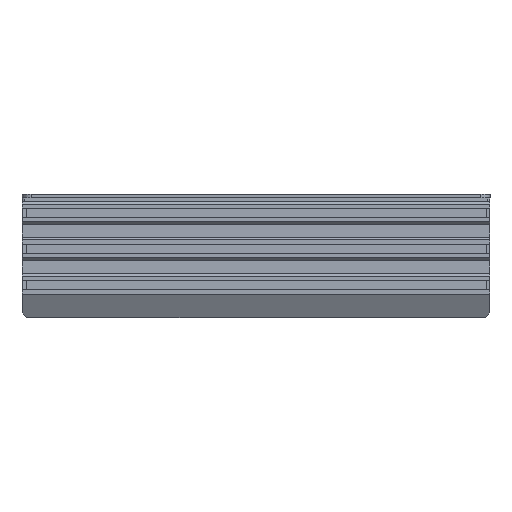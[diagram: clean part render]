
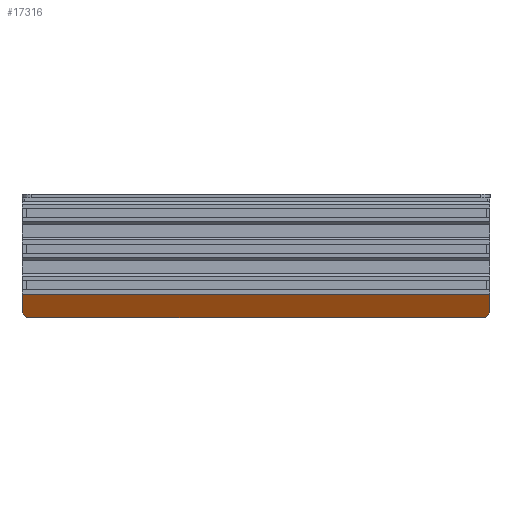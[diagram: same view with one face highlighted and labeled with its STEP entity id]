
A CAD part, left-side view. The second image highlights one B-rep face of the part: STEP entity #17316.
In plain terms, the highlighted planar face has unit normal (-0.867, 0, -0.499).
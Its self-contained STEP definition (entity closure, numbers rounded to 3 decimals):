
#1080=DIRECTION('',(-0.499,0.,0.866));
#1081=VECTOR('',#1080,9.233);
#1082=CARTESIAN_POINT('',(-89.691,-99.75,-23.7));
#1083=LINE('',#1082,#1081);
#1614=DIRECTION('',(0.499,0.,-0.866));
#1615=VECTOR('',#1614,9.233);
#1616=CARTESIAN_POINT('',(-94.3,99.75,-15.7));
#1617=LINE('',#1616,#1615);
#6790=DIRECTION('',(0.377,0.655,-0.655));
#6791=VECTOR('',#6790,3.054);
#6792=CARTESIAN_POINT('',(-89.691,-99.75,-23.7));
#6793=LINE('',#6792,#6791);
#6794=DIRECTION('',(-0.377,0.655,0.655));
#6795=VECTOR('',#6794,3.054);
#6796=CARTESIAN_POINT('',(-88.539,97.75,-25.7));
#6797=LINE('',#6796,#6795);
#6798=DIRECTION('',(0.,-1.,0.));
#6799=VECTOR('',#6798,199.5);
#6800=CARTESIAN_POINT('',(-94.3,99.75,-15.7));
#6801=LINE('',#6800,#6799);
#6802=DIRECTION('',(0.,-1.,0.));
#6803=VECTOR('',#6802,195.5);
#6804=CARTESIAN_POINT('',(-88.539,97.75,-25.7));
#6805=LINE('',#6804,#6803);
#7606=CARTESIAN_POINT('',(-89.691,-99.75,-23.7));
#7607=VERTEX_POINT('',#7606);
#7608=CARTESIAN_POINT('',(-94.3,-99.75,-15.7));
#7609=VERTEX_POINT('',#7608);
#7914=CARTESIAN_POINT('',(-94.3,99.75,-15.7));
#7915=VERTEX_POINT('',#7914);
#7916=CARTESIAN_POINT('',(-89.691,99.75,-23.7));
#7917=VERTEX_POINT('',#7916);
#9143=CARTESIAN_POINT('',(-88.539,-97.75,-25.7));
#9144=VERTEX_POINT('',#9143);
#9146=CARTESIAN_POINT('',(-88.539,97.75,-25.7));
#9147=VERTEX_POINT('',#9146);
#17301=CARTESIAN_POINT('',(-88.539,-99.75,-25.7));
#17302=DIRECTION('',(-0.866,0.,-0.499));
#17303=DIRECTION('',(-0.499,0.,0.866));
#17304=AXIS2_PLACEMENT_3D('',#17301,#17302,#17303);
#17305=PLANE('',#17304);
#17306=ORIENTED_EDGE('',*,*,#17262,.T.);
#17308=ORIENTED_EDGE('',*,*,#17307,.F.);
#17309=ORIENTED_EDGE('',*,*,#17287,.T.);
#17310=ORIENTED_EDGE('',*,*,#10042,.F.);
#17312=ORIENTED_EDGE('',*,*,#17311,.T.);
#17313=ORIENTED_EDGE('',*,*,#9617,.F.);
#17314=EDGE_LOOP('',(#17306,#17308,#17309,#17310,#17312,#17313));
#17315=FACE_OUTER_BOUND('',#17314,.F.);
#9617=EDGE_CURVE('',#7607,#7609,#1083,.T.);
#10042=EDGE_CURVE('',#7915,#7917,#1617,.T.);
#17262=EDGE_CURVE('',#7607,#9144,#6793,.T.);
#17287=EDGE_CURVE('',#9147,#7917,#6797,.T.);
#17307=EDGE_CURVE('',#9147,#9144,#6805,.T.);
#17311=EDGE_CURVE('',#7915,#7609,#6801,.T.);
#17316=ADVANCED_FACE('',(#17315),#17305,.T.);
